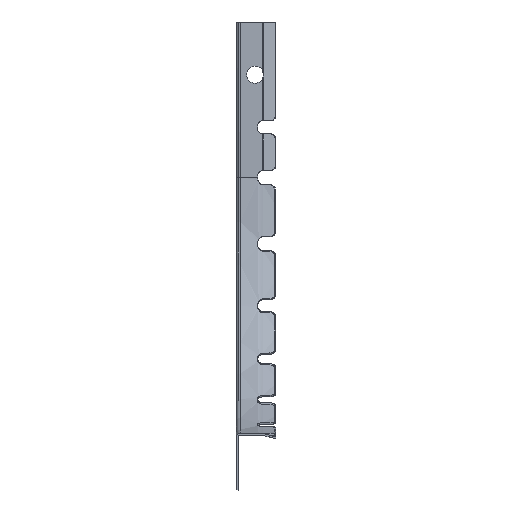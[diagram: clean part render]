
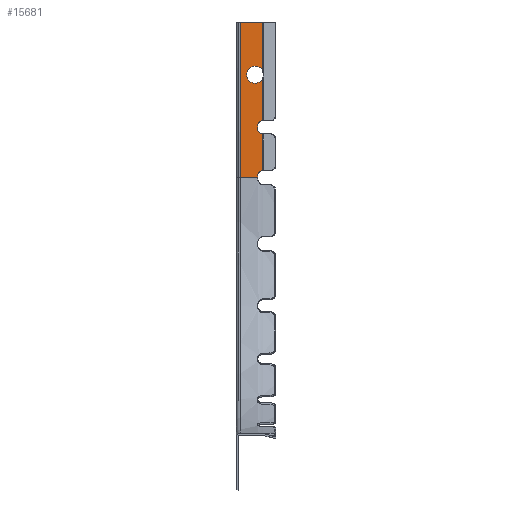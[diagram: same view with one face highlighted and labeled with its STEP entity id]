
A CAD part, left-side view. The second image highlights one B-rep face of the part: STEP entity #15681.
In plain terms, the highlighted planar face has unit normal (-1, 0, 0).
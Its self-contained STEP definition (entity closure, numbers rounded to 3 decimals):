
#252 = DIRECTION ( 'NONE',  ( 1., 0., 0. ) ) ;
#612 = DIRECTION ( 'NONE',  ( 0., 1., 0. ) ) ;
#723 = CARTESIAN_POINT ( 'NONE',  ( -200.7, -9.195, 298.01 ) ) ;
#834 = CARTESIAN_POINT ( 'NONE',  ( -200.7, -9.445, 316.5 ) ) ;
#881 = EDGE_CURVE ( 'NONE', #4342, #4005, #16976, .T. ) ;
#1248 = CARTESIAN_POINT ( 'NONE',  ( -200.7, -7.445, 317.5 ) ) ;
#1494 = VECTOR ( 'NONE', #16618, 1000. ) ;
#1637 = DIRECTION ( 'NONE',  ( 0., 0., 1. ) ) ;
#2000 = DIRECTION ( 'NONE',  ( 0., 0., 1. ) ) ;
#2017 = CIRCLE ( 'NONE', #3467, 2. ) ;
#2299 = ORIENTED_EDGE ( 'NONE', *, *, #6386, .T. ) ;
#2326 = ORIENTED_EDGE ( 'NONE', *, *, #8066, .F. ) ;
#2605 = DIRECTION ( 'NONE',  ( 0., 1., 0. ) ) ;
#2610 = VECTOR ( 'NONE', #612, 1000. ) ;
#2619 = CARTESIAN_POINT ( 'NONE',  ( -200.7, -9.445, 298.51 ) ) ;
#2675 = ORIENTED_EDGE ( 'NONE', *, *, #12879, .T. ) ;
#2896 = DIRECTION ( 'NONE',  ( 0., -1., 0. ) ) ;
#3091 = CARTESIAN_POINT ( 'NONE',  ( -200.7, -7.445, 314.5 ) ) ;
#3150 = VERTEX_POINT ( 'NONE', #5850 ) ;
#3463 = CARTESIAN_POINT ( 'NONE',  ( -200.7, -9.195, 335.267 ) ) ;
#3467 = AXIS2_PLACEMENT_3D ( 'NONE', #2619, #8231, #8140 ) ;
#3534 = EDGE_LOOP ( 'NONE', ( #13668, #9244, #2675, #4876, #13597, #17366, #2326, #11366, #2299, #6701, #12045, #17725, #9619, #10773 ) ) ;
#3832 = CIRCLE ( 'NONE', #13375, 3.25 ) ;
#4005 = VERTEX_POINT ( 'NONE', #6717 ) ;
#4170 = EDGE_CURVE ( 'NONE', #12772, #14631, #15931, .T. ) ;
#4342 = VERTEX_POINT ( 'NONE', #12138 ) ;
#4438 = CARTESIAN_POINT ( 'NONE',  ( -200.7, -6.445, 337. ) ) ;
#4582 = CARTESIAN_POINT ( 'NONE',  ( -200.7, -7.445, 295.51 ) ) ;
#4774 = FACE_OUTER_BOUND ( 'NONE', #3534, .T. ) ;
#4788 = EDGE_CURVE ( 'NONE', #14049, #11204, #11001, .T. ) ;
#4860 = CARTESIAN_POINT ( 'NONE',  ( -200.7, -6.445, 337. ) ) ;
#4876 = ORIENTED_EDGE ( 'NONE', *, *, #11756, .T. ) ;
#5219 = AXIS2_PLACEMENT_3D ( 'NONE', #4860, #7492, #6221 ) ;
#5850 = CARTESIAN_POINT ( 'NONE',  ( -200.7, -6.445, 333.75 ) ) ;
#5913 = CARTESIAN_POINT ( 'NONE',  ( -200.7, -9.195, 300.494 ) ) ;
#6221 = DIRECTION ( 'NONE',  ( 0., 0., 1. ) ) ;
#6255 = VERTEX_POINT ( 'NONE', #16114 ) ;
#6368 = CIRCLE ( 'NONE', #5219, 3.25 ) ;
#6386 = EDGE_CURVE ( 'NONE', #4005, #17171, #2017, .T. ) ;
#6518 = VERTEX_POINT ( 'NONE', #9853 ) ;
#6530 = EDGE_CURVE ( 'NONE', #3150, #6518, #16754, .T. ) ;
#6701 = ORIENTED_EDGE ( 'NONE', *, *, #12056, .T. ) ;
#6717 = CARTESIAN_POINT ( 'NONE',  ( -200.7, -7.445, 298.51 ) ) ;
#6991 = EDGE_CURVE ( 'NONE', #14631, #14049, #10238, .T. ) ;
#7024 = LINE ( 'NONE', #7201, #1494 ) ;
#7201 = CARTESIAN_POINT ( 'NONE',  ( -200.7, -9.195, 298.01 ) ) ;
#7247 = VECTOR ( 'NONE', #17540, 1000. ) ;
#7347 = EDGE_CURVE ( 'NONE', #11394, #3150, #6368, .T. ) ;
#7492 = DIRECTION ( 'NONE',  ( 1., 0., 0. ) ) ;
#7739 = CARTESIAN_POINT ( 'NONE',  ( -200.7, -9.195, 357. ) ) ;
#7868 = VECTOR ( 'NONE', #17524, 1000. ) ;
#8032 = LINE ( 'NONE', #9477, #7868 ) ;
#8066 = EDGE_CURVE ( 'NONE', #4342, #16549, #13004, .T. ) ;
#8140 = DIRECTION ( 'NONE',  ( 0., 1., 0. ) ) ;
#8231 = DIRECTION ( 'NONE',  ( 1., 0., 0. ) ) ;
#8517 = DIRECTION ( 'NONE',  ( 1., 0., 0. ) ) ;
#8557 = EDGE_CURVE ( 'NONE', #11204, #11394, #12300, .T. ) ;
#8589 = DIRECTION ( 'NONE',  ( 1., 0., 0. ) ) ;
#8732 = VECTOR ( 'NONE', #1637, 1000. ) ;
#9244 = ORIENTED_EDGE ( 'NONE', *, *, #6530, .T. ) ;
#9384 = VERTEX_POINT ( 'NONE', #15032 ) ;
#9477 = CARTESIAN_POINT ( 'NONE',  ( -200.7, -0.8, 357. ) ) ;
#9619 = ORIENTED_EDGE ( 'NONE', *, *, #4788, .T. ) ;
#9815 = VERTEX_POINT ( 'NONE', #7739 ) ;
#9853 = CARTESIAN_POINT ( 'NONE',  ( -200.7, -6.445, 340.25 ) ) ;
#9950 = DIRECTION ( 'NONE',  ( 0., 0., 1. ) ) ;
#10238 = LINE ( 'NONE', #3091, #11857 ) ;
#10419 = DIRECTION ( 'NONE',  ( 1., 0., 0. ) ) ;
#10484 = DIRECTION ( 'NONE',  ( 0., -1., 0. ) ) ;
#10545 = CARTESIAN_POINT ( 'NONE',  ( -200.7, -7.445, 316.5 ) ) ;
#10773 = ORIENTED_EDGE ( 'NONE', *, *, #8557, .T. ) ;
#10917 = CARTESIAN_POINT ( 'NONE',  ( -200.7, -9.195, 314.516 ) ) ;
#10938 = CARTESIAN_POINT ( 'NONE',  ( -200.7, -9.195, 298.01 ) ) ;
#11001 = CIRCLE ( 'NONE', #13619, 2. ) ;
#11204 = VERTEX_POINT ( 'NONE', #11839 ) ;
#11366 = ORIENTED_EDGE ( 'NONE', *, *, #881, .T. ) ;
#11394 = VERTEX_POINT ( 'NONE', #3463 ) ;
#11487 = CARTESIAN_POINT ( 'NONE',  ( -200.7, -6.445, 337. ) ) ;
#11756 = EDGE_CURVE ( 'NONE', #6255, #9815, #15493, .T. ) ;
#11777 = DIRECTION ( 'NONE',  ( 0., 1., 0. ) ) ;
#11839 = CARTESIAN_POINT ( 'NONE',  ( -200.7, -9.195, 319.484 ) ) ;
#11857 = VECTOR ( 'NONE', #2000, 1000. ) ;
#11932 = EDGE_CURVE ( 'NONE', #16549, #9384, #8032, .T. ) ;
#12025 = CARTESIAN_POINT ( 'NONE',  ( -200.7, 0., 357. ) ) ;
#12045 = ORIENTED_EDGE ( 'NONE', *, *, #4170, .T. ) ;
#12056 = EDGE_CURVE ( 'NONE', #17171, #12772, #7024, .T. ) ;
#12138 = CARTESIAN_POINT ( 'NONE',  ( -200.7, -7.445, 298.01 ) ) ;
#12247 = VECTOR ( 'NONE', #2896, 1000. ) ;
#12300 = LINE ( 'NONE', #10938, #7247 ) ;
#12772 = VERTEX_POINT ( 'NONE', #10917 ) ;
#12879 = EDGE_CURVE ( 'NONE', #6518, #6255, #3832, .T. ) ;
#13004 = LINE ( 'NONE', #17320, #2610 ) ;
#13375 = AXIS2_PLACEMENT_3D ( 'NONE', #4438, #8517, #13944 ) ;
#13384 = PLANE ( 'NONE',  #13965 ) ;
#13597 = ORIENTED_EDGE ( 'NONE', *, *, #15299, .F. ) ;
#13619 = AXIS2_PLACEMENT_3D ( 'NONE', #14996, #252, #2605 ) ;
#13668 = ORIENTED_EDGE ( 'NONE', *, *, #7347, .T. ) ;
#13939 = LINE ( 'NONE', #15200, #12247 ) ;
#13944 = DIRECTION ( 'NONE',  ( 0., 0., 1. ) ) ;
#13965 = AXIS2_PLACEMENT_3D ( 'NONE', #12025, #17523, #10484 ) ;
#14049 = VERTEX_POINT ( 'NONE', #1248 ) ;
#14406 = CARTESIAN_POINT ( 'NONE',  ( -200.7, -0.8, 298.01 ) ) ;
#14631 = VERTEX_POINT ( 'NONE', #10545 ) ;
#14996 = CARTESIAN_POINT ( 'NONE',  ( -200.7, -9.445, 317.5 ) ) ;
#15023 = AXIS2_PLACEMENT_3D ( 'NONE', #11487, #8589, #9950 ) ;
#15032 = CARTESIAN_POINT ( 'NONE',  ( -200.7, -0.8, 357. ) ) ;
#15200 = CARTESIAN_POINT ( 'NONE',  ( -200.7, -9.3, 357. ) ) ;
#15299 = EDGE_CURVE ( 'NONE', #9384, #9815, #13939, .T. ) ;
#15361 = DIRECTION ( 'NONE',  ( 0., 0., 1. ) ) ;
#15493 = LINE ( 'NONE', #723, #8732 ) ;
#15558 = VECTOR ( 'NONE', #15361, 1000. ) ;
#15630 = AXIS2_PLACEMENT_3D ( 'NONE', #834, #10419, #11777 ) ;
#15681 = ADVANCED_FACE ( 'NONE', ( #4774 ), #13384, .F. ) ;
#15931 = CIRCLE ( 'NONE', #15630, 2. ) ;
#16114 = CARTESIAN_POINT ( 'NONE',  ( -200.7, -9.195, 338.733 ) ) ;
#16549 = VERTEX_POINT ( 'NONE', #14406 ) ;
#16618 = DIRECTION ( 'NONE',  ( 0., 0., 1. ) ) ;
#16754 = CIRCLE ( 'NONE', #15023, 3.25 ) ;
#16976 = LINE ( 'NONE', #4582, #15558 ) ;
#17171 = VERTEX_POINT ( 'NONE', #5913 ) ;
#17320 = CARTESIAN_POINT ( 'NONE',  ( -200.7, 0., 298.01 ) ) ;
#17366 = ORIENTED_EDGE ( 'NONE', *, *, #11932, .F. ) ;
#17523 = DIRECTION ( 'NONE',  ( 1., 0., 0. ) ) ;
#17524 = DIRECTION ( 'NONE',  ( 0., 0., 1. ) ) ;
#17540 = DIRECTION ( 'NONE',  ( 0., 0., 1. ) ) ;
#17725 = ORIENTED_EDGE ( 'NONE', *, *, #6991, .T. ) ;
